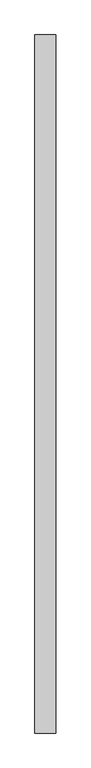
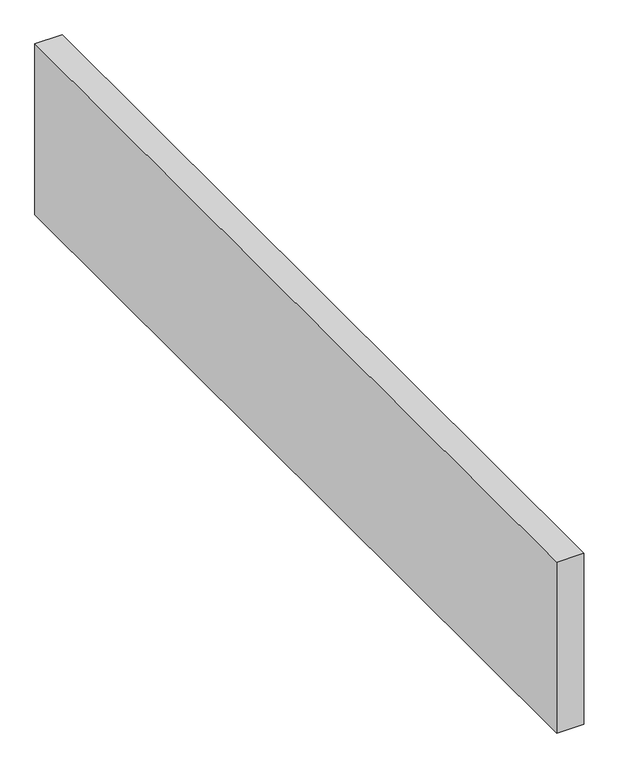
"""IFC4 building model written with IfcOpenShell, lengths in millimetres: railing geometry, Einfassung, Abschluss Grünfläche."""

from ifc_helpers import new_model, si_unit, frame, origin, place, context, project, spatial, polyline, outline, extrude, source, transform, mapped, element, save


def railing_17d5b5cc(model_context):
    return source(origin(), model_context, "Body", "SweptSolid", [
        extrude(outline(polyline([(46722.626143, -56633.6067748), (46782.626143, -56633.6067748), (46782.626143, -58633.6067748), (46722.626143, -58633.6067748), (46722.626143, -56633.6067748)])), frame((0.0, 0.0, -350.0), z_axis=(0.0, 0.0, 1.0), x_axis=(1.0, 0.0, 0.0)), (0.0, 0.0, 1.0), 400.0),
    ])


if __name__ == "__main__":
    model = new_model("IFC4")
    model_context = context("Model", 3, world=origin())
    ifc_project = project(units=[si_unit("LENGTHUNIT", "METRE", prefix="MILLI")], contexts=[model_context])
    site = spatial("IfcSite", under=ifc_project)
    building = spatial("IfcBuilding", under=site)
    placement = place(None, origin())
    railing_shape = railing_17d5b5cc(model_context)
    element("IfcRailing", 1, ObjectType="Einfassung, Abschluss Grünfläche", at=placement, inside=building, context=model_context, shape_type="MappedRepresentation", body=[
        mapped(railing_shape, transform((0.0, 0.0, 0.0), x_axis=(1.0, 0.0, 0.0), y_axis=(0.0, 1.0, 0.0), z_axis=(0.0, 0.0, 1.0))),
    ])
    save(model, "model.ifc")
